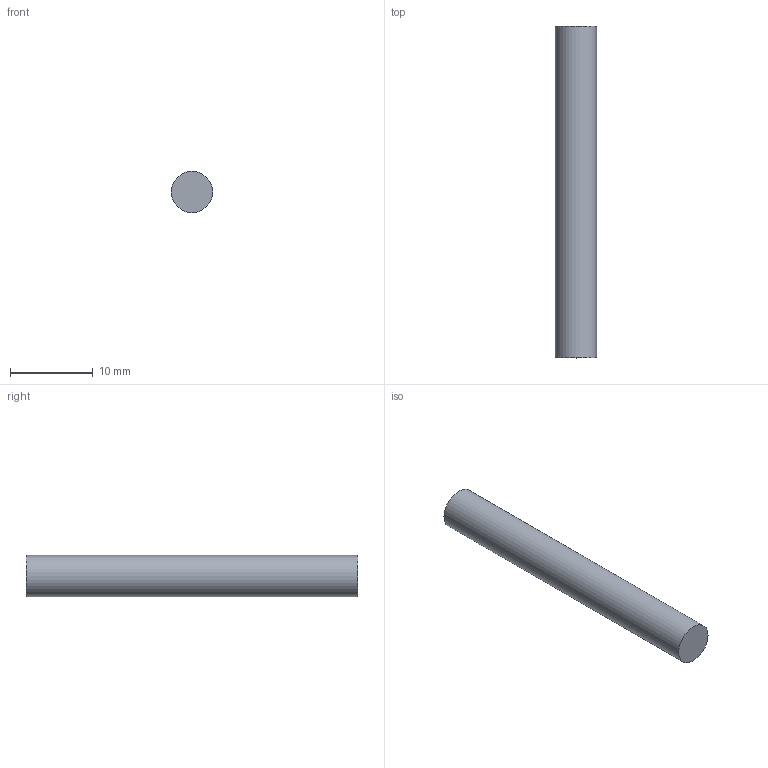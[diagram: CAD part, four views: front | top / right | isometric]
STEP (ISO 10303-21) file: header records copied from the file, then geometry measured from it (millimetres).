
FILE_DESCRIPTION(('Open CASCADE Model'),'2;1');
FILE_NAME('Open CASCADE Shape Model','2026-10-16T18:03:45',('Author'),( 'Open CASCADE'),'Open CASCADE STEP processor 7.8','Open CASCADE 7.8' ,'Unknown');
FILE_SCHEMA(('AUTOMOTIVE_DESIGN { 1 0 10303 214 1 1 1 1 }'));
Length unit declared in the file: millimetre
Products named in the file (1): Open CASCADE STEP translator 7.8 53
Bounding box: 5 x 40 x 5 mm (x, y, z)
Volume: 785.4 mm3; surface area: 667.6 mm2
Topology: 1 solids, 1 shells, 3 faces, 3 edges, 2 vertices
Faces by surface type: plane 2, cylinder 1
Full cylindrical faces by diameter (mm): 5 x1
Entity records: 108 total; most frequent: DIRECTION 19, CARTESIAN_POINT 15, AXIS2_PLACEMENT_3D 6, ORIENTED_EDGE 6, PCURVE 6, DEFINITIONAL_REPRESENTATION 6, LINE 5, VECTOR 5
